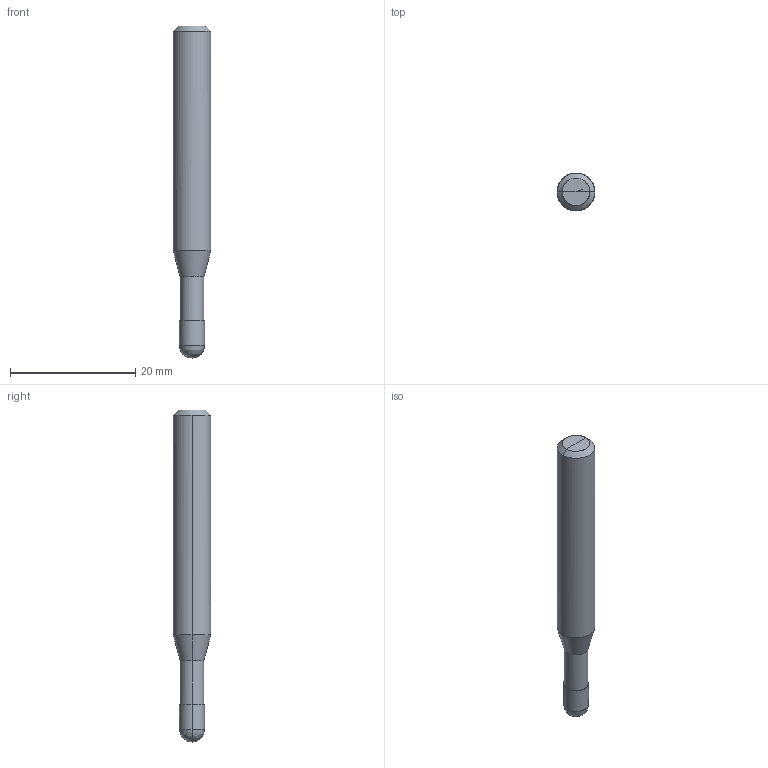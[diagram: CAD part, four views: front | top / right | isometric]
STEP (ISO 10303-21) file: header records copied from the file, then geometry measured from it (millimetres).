
FILE_DESCRIPTION(/* description */ (''),/* implementation_level */ '2;1');
FILE_NAME(/*name*/ '2152-4F',/*time_stamp*/'2021-5-25T14:14:19',/*author*/ ('ISBE GmbH'),/*organization*/ ('ISBE GmbH'),/*preprocessor_version*/ 'STEP IO v1.0',/*originating_system*/ '',/*authorisation*/ '');
FILE_SCHEMA (('AUTOMOTIVE_DESIGN'));
Length unit declared in the file: millimetre
Products named in the file (1): Document
Bounding box: 6 x 5.99 x 53 mm (x, y, z)
Surface area: 944.8 mm2 (no closed solid volume)
Topology: 0 solids, 18 shells, 18 faces, 74 edges, 68 vertices
Faces by surface type: bspline 18
Entity records: 605 total; most frequent: CARTESIAN_POINT 280, VERTEX_POINT 64, EDGE_CURVE 64, ORIENTED_EDGE 64, EDGE_LOOP 18, FACE_OUTER_BOUND 18, ADVANCED_FACE 18, DIRECTION 16
